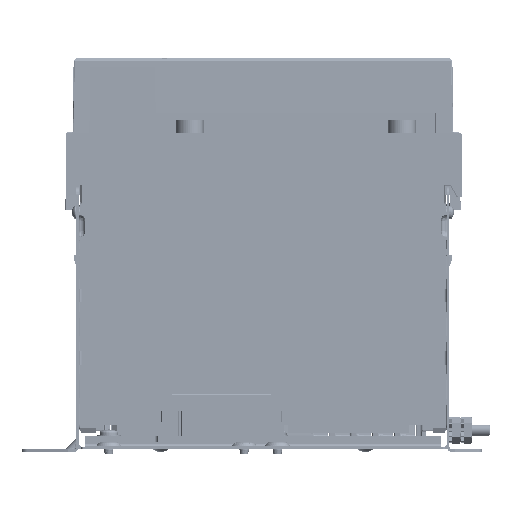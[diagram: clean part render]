
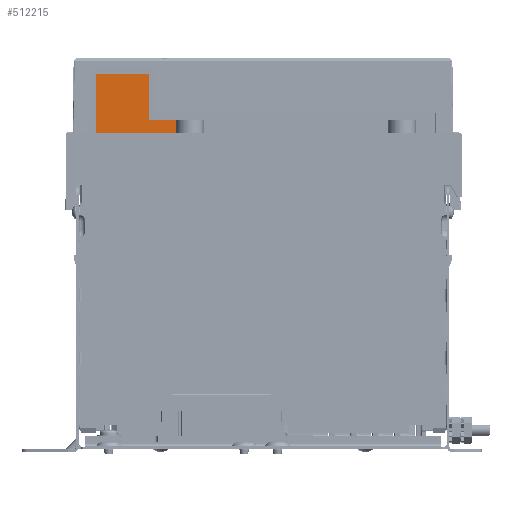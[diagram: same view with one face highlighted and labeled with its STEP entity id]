
A CAD part, left-side view. The second image highlights one B-rep face of the part: STEP entity #512215.
In plain terms, the highlighted planar face has unit normal (-1, 0, 0) as drawn and (1, 0, 0) by its records, which use the part's own axes.
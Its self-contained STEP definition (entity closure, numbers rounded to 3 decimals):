
#502824=DIRECTION('',(0.,0.,-1.));
#502825=VECTOR('',#502824,4.638);
#502826=CARTESIAN_POINT('',(-7.5,-32.18,120.369));
#502827=LINE('',#502826,#502825);
#502828=DIRECTION('',(0.,1.,0.));
#502829=VECTOR('',#502828,29.179);
#502830=CARTESIAN_POINT('',(-7.5,-61.359,115.731));
#502831=LINE('',#502830,#502829);
#502832=DIRECTION('',(0.,0.,-1.));
#502833=VECTOR('',#502832,21.438);
#502834=CARTESIAN_POINT('',(-7.5,-61.359,137.169));
#502835=LINE('',#502834,#502833);
#502836=DIRECTION('',(0.,-1.,0.));
#502837=VECTOR('',#502836,19.128);
#502838=CARTESIAN_POINT('',(-7.5,-42.231,137.169));
#502839=LINE('',#502838,#502837);
#502840=DIRECTION('',(0.,0.,1.));
#502841=VECTOR('',#502840,16.8);
#502842=CARTESIAN_POINT('',(-7.5,-42.231,120.369));
#502843=LINE('',#502842,#502841);
#502844=DIRECTION('',(0.,-1.,0.));
#502845=VECTOR('',#502844,10.051);
#502846=CARTESIAN_POINT('',(-7.5,-32.18,120.369));
#502847=LINE('',#502846,#502845);
#504410=CARTESIAN_POINT('',(-7.5,-42.231,120.369));
#504411=CARTESIAN_POINT('',(-7.5,-42.231,137.169));
#504412=VERTEX_POINT('',#504410);
#504413=VERTEX_POINT('',#504411);
#504414=CARTESIAN_POINT('',(-7.5,-61.359,137.169));
#504415=CARTESIAN_POINT('',(-7.5,-61.359,115.731));
#504416=VERTEX_POINT('',#504414);
#504417=VERTEX_POINT('',#504415);
#504438=CARTESIAN_POINT('',(-7.5,-32.18,120.369));
#504439=CARTESIAN_POINT('',(-7.5,-32.18,115.731));
#504440=VERTEX_POINT('',#504438);
#504441=VERTEX_POINT('',#504439);
#512197=CARTESIAN_POINT('',(-7.5,0.,0.));
#512198=DIRECTION('',(1.,0.,0.));
#512199=DIRECTION('',(0.,0.,-1.));
#512200=AXIS2_PLACEMENT_3D('',#512197,#512198,#512199);
#512201=PLANE('',#512200);
#512203=ORIENTED_EDGE('',*,*,#512202,.T.);
#512205=ORIENTED_EDGE('',*,*,#512204,.F.);
#512207=ORIENTED_EDGE('',*,*,#512206,.F.);
#512209=ORIENTED_EDGE('',*,*,#512208,.F.);
#512211=ORIENTED_EDGE('',*,*,#512210,.F.);
#512212=ORIENTED_EDGE('',*,*,#512143,.F.);
#512213=EDGE_LOOP('',(#512203,#512205,#512207,#512209,#512211,#512212));
#512214=FACE_OUTER_BOUND('',#512213,.F.);
#512215=ADVANCED_FACE('',(#512214),#512201,.T.);
#512143=EDGE_CURVE('',#504440,#504412,#502847,.T.);
#512202=EDGE_CURVE('',#504440,#504441,#502827,.T.);
#512204=EDGE_CURVE('',#504417,#504441,#502831,.T.);
#512206=EDGE_CURVE('',#504416,#504417,#502835,.T.);
#512208=EDGE_CURVE('',#504413,#504416,#502839,.T.);
#512210=EDGE_CURVE('',#504412,#504413,#502843,.T.);
